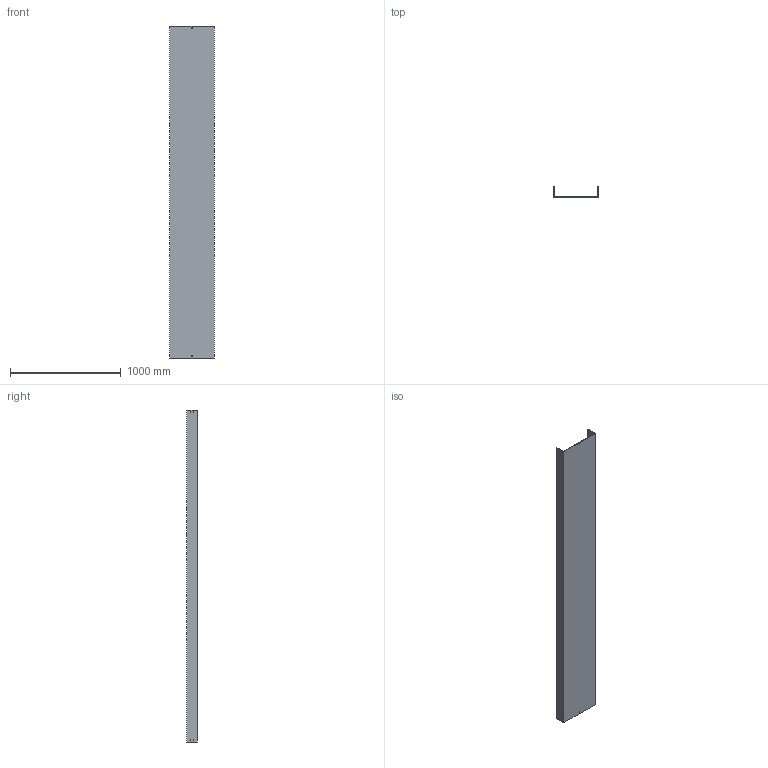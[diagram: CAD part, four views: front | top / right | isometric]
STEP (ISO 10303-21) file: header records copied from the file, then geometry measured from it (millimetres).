
FILE_DESCRIPTION (( 'STEP AP214' ), '1' );
FILE_NAME ('03B3I400.step', '2025-02-21T10:27:33', ( '' ), ( '' ), 'SwSTEP 2.0', 'SolidWorks 2023', '' );
FILE_SCHEMA (( 'AUTOMOTIVE_DESIGN' ));
Length unit declared in the file: millimetre
Products named in the file (1): 03B3I400
Bounding box: 404 x 92.5 x 3000 mm (x, y, z)
Volume: 6108630.5 mm3; surface area: 3516889 mm2
Topology: 1 solids, 1 shells, 50 faces, 144 edges, 96 vertices
Faces by surface type: plane 50
Entity records: 1671 total; most frequent: CARTESIAN_POINT 291, ORIENTED_EDGE 288, DIRECTION 246, VECTOR 144, EDGE_CURVE 144, LINE 144, VERTEX_POINT 96, EDGE_LOOP 70
